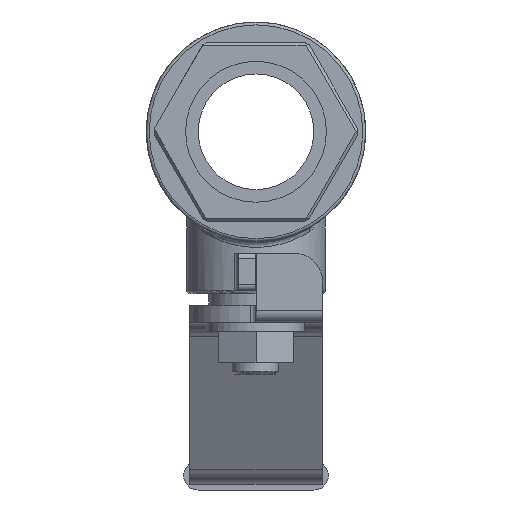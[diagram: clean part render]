
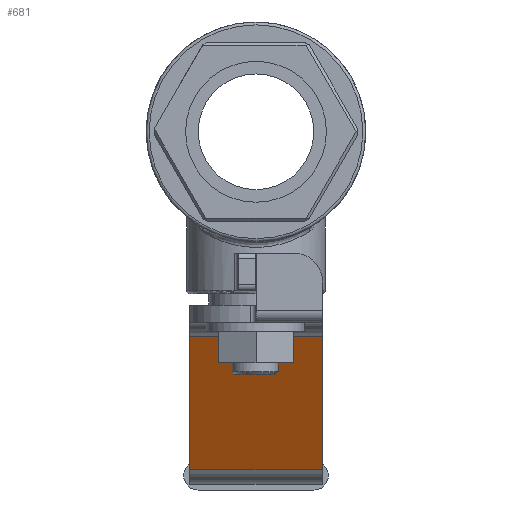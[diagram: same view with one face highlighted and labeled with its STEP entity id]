
A CAD part, left-side view. The second image highlights one B-rep face of the part: STEP entity #681.
In plain terms, the highlighted planar face has unit normal (-0.866, 0, -0.5).
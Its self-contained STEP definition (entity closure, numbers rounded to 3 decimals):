
#681 = ADVANCED_FACE( '', ( #1493 ), #1494, .F. );
#1493 = FACE_OUTER_BOUND( '', #2915, .T. );
#1494 = PLANE( '', #2916 );
#2915 = EDGE_LOOP( '', ( #6245, #6246, #6247, #6248 ) );
#2916 = AXIS2_PLACEMENT_3D( '', #6249, #6250, #6251 );
#6245 = ORIENTED_EDGE( '', *, *, #8295, .T. );
#6246 = ORIENTED_EDGE( '', *, *, #7967, .F. );
#6247 = ORIENTED_EDGE( '', *, *, #8296, .F. );
#6248 = ORIENTED_EDGE( '', *, *, #8030, .T. );
#6249 = CARTESIAN_POINT( '', ( 43.444, -11.5, -35.5 ) );
#6250 = DIRECTION( '', ( 0.866, 0., 0.5 ) );
#6251 = DIRECTION( '', ( 0.5, 0., -0.866 ) );
#7967 = EDGE_CURVE( '', #9223, #9218, #9225, .T. );
#8030 = EDGE_CURVE( '', #9325, #9323, #9326, .T. );
#8295 = EDGE_CURVE( '', #9323, #9218, #9695, .T. );
#8296 = EDGE_CURVE( '', #9325, #9223, #9696, .T. );
#9218 = VERTEX_POINT( '', #11746 );
#9223 = VERTEX_POINT( '', #11752 );
#9225 = LINE( '', #11754, #11755 );
#9323 = VERTEX_POINT( '', #11952 );
#9325 = VERTEX_POINT( '', #11954 );
#9326 = LINE( '', #11955, #11956 );
#9695 = LINE( '', #12851, #12852 );
#9696 = LINE( '', #12853, #12854 );
#11746 = CARTESIAN_POINT( '', ( 56.723, 11.5, -58.5 ) );
#11752 = CARTESIAN_POINT( '', ( 56.723, -11.5, -58.5 ) );
#11754 = CARTESIAN_POINT( '', ( 56.723, -11.5, -58.5 ) );
#11755 = VECTOR( '', #14367, 1000. );
#11952 = CARTESIAN_POINT( '', ( 43.444, 11.5, -35.5 ) );
#11954 = CARTESIAN_POINT( '', ( 43.444, -11.5, -35.5 ) );
#11955 = CARTESIAN_POINT( '', ( 43.444, -11.5, -35.5 ) );
#11956 = VECTOR( '', #14411, 1000. );
#12851 = CARTESIAN_POINT( '', ( 43.444, 11.5, -35.5 ) );
#12852 = VECTOR( '', #14550, 1000. );
#12853 = CARTESIAN_POINT( '', ( 43.444, -11.5, -35.5 ) );
#12854 = VECTOR( '', #14551, 1000. );
#14367 = DIRECTION( '', ( 0., 1., 0. ) );
#14411 = DIRECTION( '', ( 0., 1., 0. ) );
#14550 = DIRECTION( '', ( 0.5, 0., -0.866 ) );
#14551 = DIRECTION( '', ( 0.5, 0., -0.866 ) );
